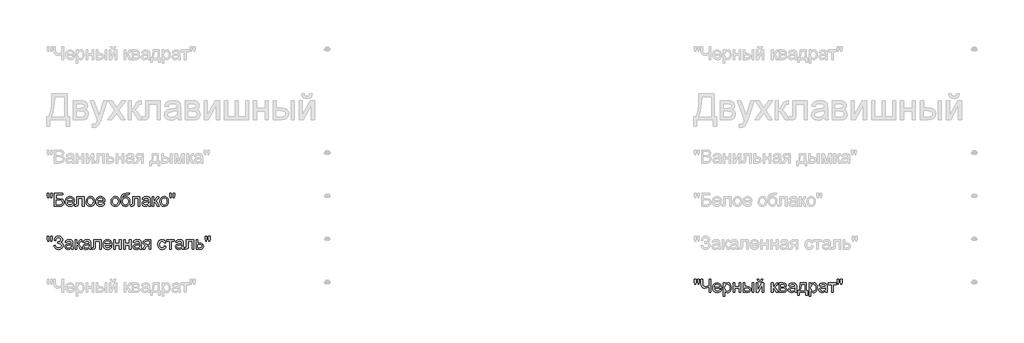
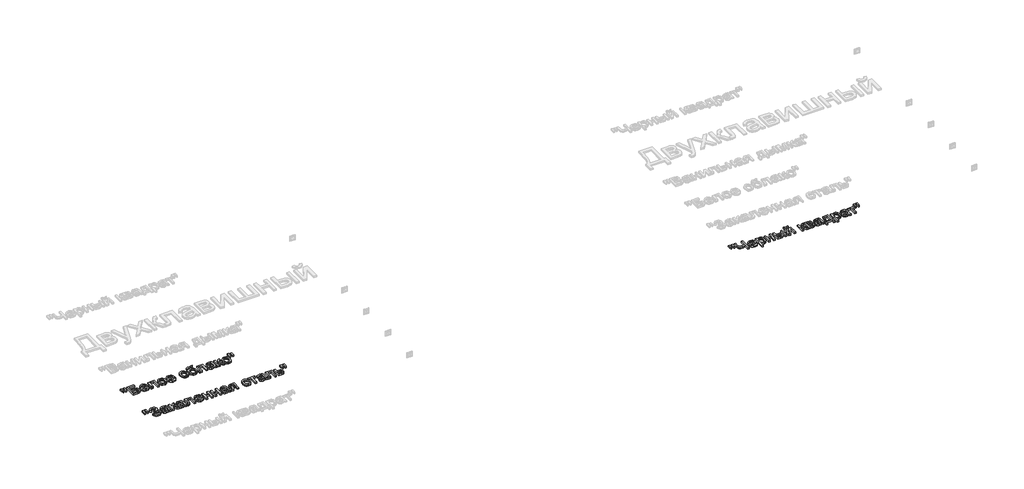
# One storey, part 132 of 168: 3 proxies.
"""IFC4 building model written with IfcOpenShell, lengths in millimetres."""

from ifc_helpers import new_model, si_unit, origin, origin_with_axes, place, context, project, spatial, polyline, outline, extrude, element, save

model = new_model("IFC4")

# Units and contexts
model_context = context("Model", 3, world=origin())
ifc_project = project(units=[si_unit("LENGTHUNIT", "METRE", prefix="MILLI")], contexts=[model_context])

# Site, building, storey
site = spatial("IfcSite", under=ifc_project)
building = spatial("IfcBuilding", under=site)
storey = spatial("IfcBuildingStorey", under=building, Name="Этаж 01", Elevation=0.0)

# Proxies
placement = place(None, origin())
element("IfcBuildingElementProxy", 1, Name="150", ObjectType="150", at=placement, inside=storey, context=model_context, shape_type="SweptSolid", body=[
    extrude(outline(polyline([(63580.1485789, -24451.873446), (63575.550054, -24422.7739802), (63575.550054, -24397.7212163), (63594.3856121, -24397.7212163), (63594.3856121, -24422.7739802), (63590.2653338, -24451.873446), (63580.1485789, -24451.873446)])), origin_with_axes(), (0.0, 0.0, 1.0), 20.0),
    extrude(outline(polyline([(63617.7093306, -24451.873446), (63613.2211703, -24422.7739802), (63613.2211703, -24397.7212163), (63632.0567284, -24397.7212163), (63632.0567284, -24422.7739802), (63627.6421445, -24451.873446), (63617.7093306, -24451.873446)])), origin_with_axes(), (0.0, 0.0, 1.0), 20.0),
    extrude(outline(polyline([(63657.9556209, -24397.7212163), (63752.1334117, -24397.7212163), (63752.1334117, -24416.5567745), (63676.791179, -24416.5567745), (63676.791179, -24461.2912251), (63712.0710624, -24461.2912251), (63743.157091, -24465.1171979), (63753.5589544, -24470.6446248), (63761.6615553, -24479.5749603), (63766.8762826, -24491.0712726), (63768.614525, -24504.2966303), (63763.6665122, -24525.7625448), (63748.8960501, -24542.0781113), (63735.6247071, -24546.823789), (63715.4555767, -24548.4056816), (63657.9556209, -24548.4056816), (63657.9556209, -24397.7212163)]), holes=[polyline([(63676.791179, -24529.5701234), (63717.1478339, -24529.5701234), (63731.4124583, -24528.015822), (63741.6119866, -24523.3529177), (63747.7372218, -24515.5814105), (63749.7789669, -24504.7013005), (63745.1068655, -24489.9492325), (63732.102237, -24482.0765578), (63703.7201411, -24480.1267833), (63676.791179, -24480.1267833), (63676.791179, -24529.5701234)])]), origin_with_axes(), (0.0, 0.0, 1.0), 20.0),
    extrude(outline(polyline([(63869.6349209, -24515.4434548), (63888.1025971, -24517.7978996), (63881.4485315, -24531.713036), (63870.8305374, -24542.1148995), (63856.4877381, -24548.5988196), (63838.6592569, -24550.7601263), (63816.5587461, -24547.0307226), (63799.5534008, -24535.8425114), (63788.710079, -24517.9220597), (63785.0956384, -24493.9959345), (63788.7468672, -24469.2650674), (63799.7005536, -24450.7698), (63816.4759726, -24439.2366995), (63837.5923991, -24435.3923327), (63858.0512366, -24439.2275025), (63874.3989927, -24450.7330118), (63885.1181544, -24469.191491), (63888.6912083, -24493.8855699), (63888.5808437, -24498.9623414), (63803.9311966, -24498.9623414), (63807.1915508, -24513.0614189), (63814.7653213, -24523.4264941), (63825.6960151, -24529.8000497), (63839.0271389, -24531.9245682), (63857.4948151, -24527.9882308), (63869.6349209, -24515.4434548)]), holes=[polyline([(63803.9311966, -24480.1267833), (63869.8556501, -24480.1267833), (63867.3080673, -24470.1755753), (63862.3140692, -24463.0570587), (63851.3327917, -24456.4351828), (63837.5188227, -24454.2278908), (63824.8222954, -24455.9891259), (63814.3238629, -24461.272831), (63807.0260039, -24469.5087892), (63803.9311966, -24480.1267833)])]), origin_with_axes(), (0.0, 0.0, 1.0), 20.0),
    extrude(outline(polyline([(63916.9445455, -24437.7467774), (64001.7045572, -24437.7467774), (64001.7045572, -24548.295317), (63982.868999, -24548.295317), (63982.868999, -24456.5823356), (63935.7801036, -24456.5823356), (63935.7801036, -24509.3734019), (63934.5109108, -24533.72719), (63927.539547, -24544.0094917), (63911.0584336, -24548.4056816), (63895.7545426, -24547.4491884), (63895.7545426, -24529.5701234), (63904.1790403, -24529.5701234), (63912.6955084, -24528.4112951), (63916.0984169, -24524.7324752), (63916.9445455, -24508.3065441), (63916.9445455, -24437.7467774)])), origin_with_axes(), (0.0, 0.0, 1.0), 20.0),
    extrude(outline(polyline([(64025.2490049, -24493.0762295), (64029.323298, -24466.3955878), (64041.5461773, -24447.6428031), (64056.6477332, -24438.4549503), (64074.7291332, -24435.3923327), (64094.516586, -24439.1217364), (64110.3217163, -24450.3099476), (64120.6821929, -24468.0740494), (64124.1356852, -24491.5311251), (64122.6089749, -24510.5598213), (64118.0288441, -24525.0451749), (64110.5286499, -24535.8930952), (64100.2417496, -24544.0094917), (64088.0234688, -24549.0724677), (64074.7291332, -24550.7601263), (64054.7025571, -24547.0445182), (64038.915821, -24535.8976937), (64028.6657089, -24517.7611114), (64025.2490049, -24493.0762295)]), holes=[polyline([(64044.084563, -24493.0394413), (64046.2642638, -24510.0861732), (64052.8033663, -24522.2308776), (64062.6442097, -24529.5011455), (64074.7291332, -24531.9245682), (64086.7588745, -24529.48735), (64096.5813237, -24522.1756953), (64103.1204262, -24509.8700426), (64105.300127, -24492.4508301), (64103.1066306, -24475.9007388), (64096.5261414, -24463.9215814), (64086.6898966, -24456.6513134), (64074.7291332, -24454.2278908), (64062.6442097, -24456.6421164), (64052.8033663, -24463.8847932), (64046.2642638, -24476.0019064), (64044.084563, -24493.0394413)])]), origin_with_axes(), (0.0, 0.0, 1.0), 20.0),
    extrude(outline(polyline([(64222.8016363, -24515.4434548), (64241.2693124, -24517.7978996), (64234.6152469, -24531.713036), (64223.9972528, -24542.1148995), (64209.6544535, -24548.5988196), (64191.8259723, -24550.7601263), (64169.7254614, -24547.0307226), (64152.7201162, -24535.8425114), (64141.8767944, -24517.9220597), (64138.2623538, -24493.9959345), (64141.9135826, -24469.2650674), (64152.867269, -24450.7698), (64169.642688, -24439.2366995), (64190.7591145, -24435.3923327), (64211.217952, -24439.2275025), (64227.5657081, -24450.7330118), (64238.2848698, -24469.191491), (64241.8579236, -24493.8855699), (64241.747559, -24498.9623414), (64157.0979119, -24498.9623414), (64160.3582661, -24513.0614189), (64167.9320367, -24523.4264941), (64178.8627305, -24529.8000497), (64192.1938543, -24531.9245682), (64210.6615304, -24527.9882308), (64222.8016363, -24515.4434548)]), holes=[polyline([(64157.0979119, -24480.1267833), (64223.0223655, -24480.1267833), (64220.4747827, -24470.1755753), (64215.4807846, -24463.0570587), (64204.499507, -24456.4351828), (64190.6855381, -24454.2278908), (64177.9890107, -24455.9891259), (64167.4905783, -24461.272831), (64160.1927192, -24469.5087892), (64157.0979119, -24480.1267833)])]), origin_with_axes(), (0.0, 0.0, 1.0), 20.0),
    extrude(outline(polyline([(64314.8457115, -24493.0762295), (64318.9200046, -24466.3955878), (64331.1428839, -24447.6428031), (64346.2444398, -24438.4549503), (64364.3258398, -24435.3923327), (64384.1132926, -24439.1217364), (64399.9184229, -24450.3099476), (64410.2788995, -24468.0740494), (64413.7323918, -24491.5311251), (64412.2056815, -24510.5598213), (64407.6255507, -24525.0451749), (64400.1253565, -24535.8930952), (64389.8384562, -24544.0094917), (64377.6201754, -24549.0724677), (64364.3258398, -24550.7601263), (64344.2992637, -24547.0445182), (64328.5125276, -24535.8976937), (64318.2624155, -24517.7611114), (64314.8457115, -24493.0762295)]), holes=[polyline([(64333.6812696, -24493.0394413), (64335.8609704, -24510.0861732), (64342.4000729, -24522.2308776), (64352.2409163, -24529.5011455), (64364.3258398, -24531.9245682), (64376.3555811, -24529.48735), (64386.1780303, -24522.1756953), (64392.7171328, -24509.8700426), (64394.8968336, -24492.4508301), (64392.7033372, -24475.9007388), (64386.122848, -24463.9215814), (64376.2866032, -24456.6513134), (64364.3258398, -24454.2278908), (64352.2409163, -24456.6421164), (64342.4000729, -24463.8847932), (64335.8609704, -24476.0019064), (64333.6812696, -24493.0394413)])]), origin_with_axes(), (0.0, 0.0, 1.0), 20.0),
    extrude(outline(polyline([(64512.6190721, -24395.3667716), (64529.1001855, -24395.3667716), (64524.2441431, -24410.0636573), (64514.6424231, -24415.3795521), (64491.576222, -24416.5567745), (64460.5085875, -24420.897782), (64453.3808738, -24426.5447707), (64448.5892108, -24434.8037215), (64444.560903, -24459.4150269), (64460.8764695, -24441.3888092), (64470.7954878, -24436.8914518), (64481.9009255, -24435.3923327), (64501.4998388, -24439.2045098), (64517.401538, -24450.6410414), (64527.9413572, -24468.5798871), (64531.4546302, -24491.8990071), (64529.7117893, -24509.8792396), (64524.4832664, -24524.3094109), (64507.9469707, -24543.8623389), (64496.6529935, -24549.0356795), (64481.9009255, -24550.7601263), (64464.9001788, -24548.5390388), (64452.1576662, -24541.8757762), (64442.7812738, -24531.7498242), (64435.8788879, -24519.1406689), (64431.6298508, -24500.1533594), (64430.2135052, -24470.8929452), (64433.786559, -24434.7531377), (64444.5057207, -24412.7124076), (64462.6377045, -24401.4690142), (64488.449225, -24397.7212163), (64509.4184987, -24397.2981521), (64512.6190721, -24395.3667716)]), holes=[polyline([(64512.6190721, -24491.3103959), (64510.577327, -24476.48935), (64504.4520918, -24464.6205572), (64494.6112484, -24456.8260574), (64481.4226789, -24454.2278908), (64467.6730893, -24456.9732102), (64457.473561, -24465.2091684), (64451.1551877, -24478.0344544), (64449.0490633, -24494.5477575), (64451.3759169, -24510.5552228), (64458.3564778, -24522.304454), (64468.7491442, -24529.5195396), (64481.3123143, -24531.9245682), (64493.9398638, -24529.1424606), (64503.937057, -24520.7961378), (64510.4485683, -24507.8604872), (64512.6190721, -24491.3103959)])]), origin_with_axes(), (0.0, 0.0, 1.0), 20.0),
    extrude(outline(polyline([(64564.416857, -24437.7467774), (64649.1768687, -24437.7467774), (64649.1768687, -24548.295317), (64630.3413105, -24548.295317), (64630.3413105, -24456.5823356), (64583.2524152, -24456.5823356), (64583.2524152, -24509.3734019), (64581.9832223, -24533.72719), (64575.0118585, -24544.0094917), (64558.5307451, -24548.4056816), (64543.2268541, -24547.4491884), (64543.2268541, -24529.5701234), (64551.6513518, -24529.5701234), (64560.16782, -24528.4112951), (64563.5707284, -24524.7324752), (64564.416857, -24508.3065441), (64564.416857, -24437.7467774)])), origin_with_axes(), (0.0, 0.0, 1.0), 20.0),
    extrude(outline(polyline([(64748.063549, -24534.279013), (64729.7982079, -24547.0445182), (64709.6198805, -24550.7601263), (64693.8791296, -24548.5252432), (64682.2678542, -24541.8205939), (64675.1079508, -24531.6394596), (64672.7213164, -24518.975122), (64676.3265599, -24504.0759012), (64685.7995213, -24493.2601705), (64698.9880908, -24487.079753), (64715.2852632, -24484.2470616), (64747.9531844, -24477.7723385), (64748.063549, -24473.5784838), (64746.766765, -24465.1723802), (64742.8764129, -24459.6725443), (64734.1760037, -24455.5890542), (64722.0542919, -24454.2278908), (64702.9980046, -24457.8515285), (64693.9113193, -24470.7090042), (64675.0757612, -24468.3545594), (64683.2243473, -24449.9604597), (64699.6318843, -24439.1815172), (64724.4823131, -24435.3923327), (64747.3093909, -24438.7400588), (64760.2036548, -24447.1461624), (64765.9794022, -24459.9300617), (64766.8991071, -24476.4111751), (64766.8991071, -24499.8452582), (64767.8556003, -24532.5683617), (64771.6079967, -24548.4056816), (64752.7724385, -24548.4056816), (64748.063549, -24534.279013)]), holes=[polyline([(64748.063549, -24496.6078966), (64717.6764962, -24502.383644), (64701.4712943, -24505.4370645), (64694.1320485, -24510.4034715), (64691.5568745, -24517.6507468), (64697.167075, -24527.841078), (64713.6297942, -24531.9245682), (64732.6860816, -24527.4180137), (64744.9733402, -24516.5103126), (64747.9531844, -24501.9421856), (64748.063549, -24496.6078966)])]), origin_with_axes(), (0.0, 0.0, 1.0), 20.0),
    extrude(outline(polyline([(64792.7979996, -24437.7467774), (64811.6335578, -24437.7467774), (64811.6335578, -24484.8356728), (64824.2519102, -24481.4511584), (64834.5893943, -24461.7326835), (64843.1794388, -24444.7181412), (64850.7578079, -24439.1815172), (64864.5349887, -24437.7467774), (64868.1402322, -24437.7467774), (64868.1402322, -24456.6927002), (64863.0634607, -24456.5823356), (64853.8664108, -24458.5688983), (64847.3916877, -24470.9665216), (64839.7949245, -24484.3758203), (64829.1447407, -24490.9425139), (64841.0273292, -24498.2725627), (64852.6891884, -24513.7144094), (64872.8491218, -24548.4056816), (64851.4383896, -24548.4056816), (64831.6831265, -24514.4501734), (64821.7503126, -24500.0843815), (64811.6335578, -24496.6078966), (64811.6335578, -24548.4056816), (64792.7979996, -24548.4056816), (64792.7979996, -24437.7467774)])), origin_with_axes(), (0.0, 0.0, 1.0), 20.0),
    extrude(outline(polyline([(64879.9124561, -24493.0762295), (64883.9867492, -24466.3955878), (64896.2096285, -24447.6428031), (64911.3111844, -24438.4549503), (64929.3925844, -24435.3923327), (64949.1800372, -24439.1217364), (64964.9851674, -24450.3099476), (64975.3456441, -24468.0740494), (64978.7991364, -24491.5311251), (64977.2724261, -24510.5598213), (64972.6922952, -24525.0451749), (64965.1921011, -24535.8930952), (64954.9052008, -24544.0094917), (64942.68692, -24549.0724677), (64929.3925844, -24550.7601263), (64909.3660083, -24547.0445182), (64893.5792722, -24535.8976937), (64883.3291601, -24517.7611114), (64879.9124561, -24493.0762295)]), holes=[polyline([(64898.7480142, -24493.0394413), (64900.927715, -24510.0861732), (64907.4668175, -24522.2308776), (64917.3076609, -24529.5011455), (64929.3925844, -24531.9245682), (64941.4223257, -24529.48735), (64951.2447749, -24522.1756953), (64957.7838774, -24509.8700426), (64959.9635782, -24492.4508301), (64957.7700818, -24475.9007388), (64951.1895926, -24463.9215814), (64941.3533478, -24456.6513134), (64929.3925844, -24454.2278908), (64917.3076609, -24456.6421164), (64907.4668175, -24463.8847932), (64900.927715, -24476.0019064), (64898.7480142, -24493.0394413)])]), origin_with_axes(), (0.0, 0.0, 1.0), 20.0),
    extrude(outline(polyline([(64999.8787747, -24451.873446), (64995.2802498, -24422.7739802), (64995.2802498, -24397.7212163), (65014.1158079, -24397.7212163), (65014.1158079, -24422.7739802), (65009.9955296, -24451.873446), (64999.8787747, -24451.873446)])), origin_with_axes(), (0.0, 0.0, 1.0), 20.0),
    extrude(outline(polyline([(65037.4395264, -24451.873446), (65032.9513661, -24422.7739802), (65032.9513661, -24397.7212163), (65051.7869242, -24397.7212163), (65051.7869242, -24422.7739802), (65047.3723403, -24451.873446), (65037.4395264, -24451.873446)])), origin_with_axes(), (0.0, 0.0, 1.0), 20.0),
])
element("IfcBuildingElementProxy", 2, Name="150", ObjectType="150", at=placement, inside=storey, context=model_context, shape_type="SweptSolid", body=[
    extrude(outline(polyline([(63580.1485789, -24951.873446), (63575.550054, -24922.7739802), (63575.550054, -24897.7212163), (63594.3856121, -24897.7212163), (63594.3856121, -24922.7739802), (63590.2653338, -24951.873446), (63580.1485789, -24951.873446)])), origin_with_axes(), (0.0, 0.0, 1.0), 20.0),
    extrude(outline(polyline([(63617.7093306, -24951.873446), (63613.2211703, -24922.7739802), (63613.2211703, -24897.7212163), (63632.0567284, -24897.7212163), (63632.0567284, -24922.7739802), (63627.6421445, -24951.873446), (63617.7093306, -24951.873446)])), origin_with_axes(), (0.0, 0.0, 1.0), 20.0),
    extrude(outline(polyline([(63650.8922866, -25006.0256757), (63669.7278447, -25001.3167862), (63681.2977335, -25021.7158428), (63692.2284273, -25029.3723868), (63706.2217387, -25031.9245682), (63720.398991, -25030.0069833), (63731.2193202, -25024.2542286), (63738.0757209, -25015.7883442), (63740.3611878, -25005.7313701), (63737.8641888, -24995.1961495), (63730.3731916, -24987.0613589), (63718.5779752, -24981.8604272), (63703.1683181, -24980.1267833), (63693.2722924, -24980.1267833), (63693.2722924, -24961.2912251), (63714.591054, -24959.7645148), (63727.6324708, -24951.9654165), (63733.2978535, -24937.7099892), (63731.4124583, -24928.8394346), (63725.7562726, -24921.2104817), (63716.8811195, -24915.9543677), (63705.3388219, -24914.2023297), (63686.1169876, -24919.591801), (63675.117316, -24933.8840165), (63672.0822895, -24947.1645565), (63653.2467313, -24942.455667), (63659.0983543, -24921.8542752), (63669.7002536, -24907.1389954), (63685.0524291, -24898.3098275), (63705.1548809, -24895.3667716), (63724.5468605, -24898.4247907), (63739.4598769, -24907.5988479), (63748.965028, -24920.8655924), (63752.1334117, -24936.201673), (63747.2037929, -24954.8440931), (63732.4149367, -24968.7592296), (63742.8903765, -24973.5830823), (63751.5080123, -24981.7270699), (63757.2745625, -24992.4922168), (63759.196746, -25005.1795471), (63755.508729, -25023.0172254), (63744.444678, -25037.6819214), (63727.2921799, -25047.4905751), (63705.3388219, -25050.7601263), (63686.2365493, -25047.9642232), (63670.7947025, -25039.5765137), (63659.0132816, -25025.5969979), (63650.8922866, -25006.0256757)])), origin_with_axes(), (0.0, 0.0, 1.0), 20.0),
    extrude(outline(polyline([(63853.3745367, -25034.279013), (63835.1091957, -25047.0445182), (63814.9308682, -25050.7601263), (63799.1901174, -25048.5252432), (63787.5788419, -25041.8205939), (63780.4189386, -25031.6394596), (63778.0323041, -25018.975122), (63781.6375477, -25004.0759012), (63791.110509, -24993.2601705), (63804.2990786, -24987.079753), (63820.596251, -24984.2470616), (63853.2641721, -24977.7723385), (63853.3745367, -24973.5784838), (63852.0777527, -24965.1723802), (63848.1874006, -24959.6725443), (63839.4869914, -24955.5890542), (63827.3652797, -24954.2278908), (63808.3089923, -24957.8515285), (63799.222307, -24970.7090042), (63780.3867489, -24968.3545594), (63788.5353351, -24949.9604597), (63804.9428721, -24939.1815172), (63829.7933008, -24935.3923327), (63852.6203786, -24938.7400588), (63865.5146426, -24947.1461624), (63871.2903899, -24959.9300617), (63872.2100949, -24976.4111751), (63872.2100949, -24999.8452582), (63873.1665881, -25032.5683617), (63876.9189844, -25048.4056816), (63858.0834263, -25048.4056816), (63853.3745367, -25034.279013)]), holes=[polyline([(63853.3745367, -24996.6078966), (63822.9874839, -25002.383644), (63806.782282, -25005.4370645), (63799.4430362, -25010.4034715), (63796.8678623, -25017.6507468), (63802.4780627, -25027.841078), (63818.940782, -25031.9245682), (63837.9970693, -25027.4180137), (63850.284328, -25016.5103126), (63853.2641721, -25001.9421856), (63853.3745367, -24996.6078966)])]), origin_with_axes(), (0.0, 0.0, 1.0), 20.0),
    extrude(outline(polyline([(63898.1089873, -24937.7467774), (63916.9445455, -24937.7467774), (63916.9445455, -24984.8356728), (63929.5628979, -24981.4511584), (63939.900382, -24961.7326835), (63948.4904266, -24944.7181412), (63956.0687957, -24939.1815172), (63969.8459764, -24937.7467774), (63973.4512199, -24937.7467774), (63973.4512199, -24956.6927002), (63968.3744484, -24956.5823356), (63959.1773985, -24958.5688983), (63952.7026754, -24970.9665216), (63945.1059122, -24984.3758203), (63934.4557285, -24990.9425139), (63946.3383169, -24998.2725627), (63958.0001762, -25013.7144094), (63978.1601095, -25048.4056816), (63956.7493774, -25048.4056816), (63936.9941142, -25014.4501734), (63927.0613004, -25000.0843815), (63916.9445455, -24996.6078966), (63916.9445455, -25048.4056816), (63898.1089873, -25048.4056816), (63898.1089873, -24937.7467774)])), origin_with_axes(), (0.0, 0.0, 1.0), 20.0),
    extrude(outline(polyline([(64060.5656764, -25034.279013), (64042.3003353, -25047.0445182), (64022.1220079, -25050.7601263), (64006.381257, -25048.5252432), (63994.7699816, -25041.8205939), (63987.6100782, -25031.6394596), (63985.2234438, -25018.975122), (63988.8286873, -25004.0759012), (63998.3016487, -24993.2601705), (64011.4902183, -24987.079753), (64027.7873906, -24984.2470616), (64060.4553118, -24977.7723385), (64060.5656764, -24973.5784838), (64059.2688924, -24965.1723802), (64055.3785403, -24959.6725443), (64046.6781311, -24955.5890542), (64034.5564193, -24954.2278908), (64015.500132, -24957.8515285), (64006.4134467, -24970.7090042), (63987.5778886, -24968.3545594), (63995.7264748, -24949.9604597), (64012.1340117, -24939.1815172), (64036.9844405, -24935.3923327), (64059.8115183, -24938.7400588), (64072.7057822, -24947.1461624), (64078.4815296, -24959.9300617), (64079.4012346, -24976.4111751), (64079.4012346, -24999.8452582), (64080.3577277, -25032.5683617), (64084.1101241, -25048.4056816), (64065.2745659, -25048.4056816), (64060.5656764, -25034.279013)]), holes=[polyline([(64060.5656764, -24996.6078966), (64030.1786236, -25002.383644), (64013.9734217, -25005.4370645), (64006.6341759, -25010.4034715), (64004.0590019, -25017.6507468), (64009.6692024, -25027.841078), (64026.1319217, -25031.9245682), (64045.188209, -25027.4180137), (64057.4754676, -25016.5103126), (64060.4553118, -25001.9421856), (64060.5656764, -24996.6078966)])]), origin_with_axes(), (0.0, 0.0, 1.0), 20.0),
    extrude(outline(polyline([(64114.7179061, -24937.7467774), (64199.4779178, -24937.7467774), (64199.4779178, -25048.295317), (64180.6423596, -25048.295317), (64180.6423596, -24956.5823356), (64133.5534643, -24956.5823356), (64133.5534643, -25009.3734019), (64132.2842714, -25033.72719), (64125.3129076, -25044.0094917), (64108.8317942, -25048.4056816), (64093.5279032, -25047.4491884), (64093.5279032, -25029.5701234), (64101.9524009, -25029.5701234), (64110.4688691, -25028.4112951), (64113.8717775, -25024.7324752), (64114.7179061, -25008.3065441), (64114.7179061, -24937.7467774)])), origin_with_axes(), (0.0, 0.0, 1.0), 20.0),
    extrude(outline(polyline([(64305.2072032, -25015.4434548), (64323.6748794, -25017.7978996), (64317.0208138, -25031.713036), (64306.4028197, -25042.1148995), (64292.0600204, -25048.5988196), (64274.2315392, -25050.7601263), (64252.1310283, -25047.0307226), (64235.1256831, -25035.8425114), (64224.2823613, -25017.9220597), (64220.6679207, -24993.9959345), (64224.3191495, -24969.2650674), (64235.2728359, -24950.7698), (64252.0482549, -24939.2366995), (64273.1646814, -24935.3923327), (64293.6235189, -24939.2275025), (64309.971275, -24950.7330118), (64320.6904367, -24969.191491), (64324.2634906, -24993.8855699), (64324.153126, -24998.9623414), (64239.5034789, -24998.9623414), (64242.763833, -25013.0614189), (64250.3376036, -25023.4264941), (64261.2682974, -25029.8000497), (64274.5994212, -25031.9245682), (64293.0670974, -25027.9882308), (64305.2072032, -25015.4434548)]), holes=[polyline([(64239.5034789, -24980.1267833), (64305.4279324, -24980.1267833), (64302.8803496, -24970.1755753), (64297.8863515, -24963.0570587), (64286.9050739, -24956.4351828), (64273.091105, -24954.2278908), (64260.3945777, -24955.9891259), (64249.8961452, -24961.272831), (64242.5982861, -24969.5087892), (64239.5034789, -24980.1267833)])]), origin_with_axes(), (0.0, 0.0, 1.0), 20.0),
    extrude(outline(polyline([(64343.0990487, -24937.7467774), (64361.9346069, -24937.7467774), (64361.9346069, -24980.1267833), (64411.377947, -24980.1267833), (64411.377947, -24937.7467774), (64430.2135052, -24937.7467774), (64430.2135052, -25048.4056816), (64411.377947, -25048.4056816), (64411.377947, -24998.9623414), (64361.9346069, -24998.9623414), (64361.9346069, -25048.4056816), (64343.0990487, -25048.4056816), (64343.0990487, -24937.7467774)])), origin_with_axes(), (0.0, 0.0, 1.0), 20.0),
    extrude(outline(polyline([(64458.4668424, -24937.7467774), (64477.3024005, -24937.7467774), (64477.3024005, -24980.1267833), (64526.7457407, -24980.1267833), (64526.7457407, -24937.7467774), (64545.5812988, -24937.7467774), (64545.5812988, -25048.4056816), (64526.7457407, -25048.4056816), (64526.7457407, -24998.9623414), (64477.3024005, -24998.9623414), (64477.3024005, -25048.4056816), (64458.4668424, -25048.4056816), (64458.4668424, -24937.7467774)])), origin_with_axes(), (0.0, 0.0, 1.0), 20.0),
    extrude(outline(polyline([(64644.4679792, -25034.279013), (64626.2026381, -25047.0445182), (64606.0243107, -25050.7601263), (64590.2835598, -25048.5252432), (64578.6722843, -25041.8205939), (64571.512381, -25031.6394596), (64569.1257465, -25018.975122), (64572.7309901, -25004.0759012), (64582.2039515, -24993.2601705), (64595.392521, -24987.079753), (64611.6896934, -24984.2470616), (64644.3576146, -24977.7723385), (64644.4679792, -24973.5784838), (64643.1711951, -24965.1723802), (64639.280843, -24959.6725443), (64630.5804338, -24955.5890542), (64618.4587221, -24954.2278908), (64599.4024347, -24957.8515285), (64590.3157495, -24970.7090042), (64571.4801913, -24968.3545594), (64579.6287775, -24949.9604597), (64596.0363145, -24939.1815172), (64620.8867433, -24935.3923327), (64643.7138211, -24938.7400588), (64656.608085, -24947.1461624), (64662.3838323, -24959.9300617), (64663.3035373, -24976.4111751), (64663.3035373, -24999.8452582), (64664.2600305, -25032.5683617), (64668.0124268, -25048.4056816), (64649.1768687, -25048.4056816), (64644.4679792, -25034.279013)]), holes=[polyline([(64644.4679792, -24996.6078966), (64614.0809264, -25002.383644), (64597.8757245, -25005.4370645), (64590.5364787, -25010.4034715), (64587.9613047, -25017.6507468), (64593.5715051, -25027.841078), (64610.0342244, -25031.9245682), (64629.0905118, -25027.4180137), (64641.3777704, -25016.5103126), (64644.3576146, -25001.9421856), (64644.4679792, -24996.6078966)])]), origin_with_axes(), (0.0, 0.0, 1.0), 20.0),
    extrude(outline(polyline([(64773.9624415, -24937.7467774), (64773.9624415, -25048.4056816), (64755.1268833, -25048.4056816), (64755.1268833, -25006.0256757), (64744.8629756, -25006.0256757), (64730.8834598, -25008.4169087), (64717.7500726, -25024.4933519), (64702.7404872, -25048.4056816), (64680.9618731, -25048.4056816), (64699.8710076, -25018.1657816), (64708.2219289, -25007.3132627), (64715.9106626, -25002.4940086), (64703.0347928, -24998.5484742), (64693.9848957, -24991.0528785), (64688.6322127, -24981.0832765), (64686.847985, -24969.7157228), (64689.2852032, -24956.8214589), (64696.5968579, -24946.6127335), (64708.5254316, -24939.9632664), (64724.8134069, -24937.7467774), (64773.9624415, -24937.7467774)]), holes=[polyline([(64755.1268833, -24956.5823356), (64730.2948486, -24956.5823356), (64717.4695626, -24957.672186), (64710.1900976, -24960.9417372), (64705.6835431, -24971.1504626), (64707.3436107, -24978.32876), (64712.3238132, -24983.3089625), (64735.8498668, -24987.1901176), (64755.1268833, -24987.1901176), (64755.1268833, -24956.5823356)])]), origin_with_axes(), (0.0, 0.0, 1.0), 20.0),
    extrude(outline(polyline([(64931.710241, -25008.3801205), (64950.5457991, -25010.7345653), (64945.2942837, -25027.4869916), (64935.4258491, -25040.1467308), (64921.8693976, -25048.1067774), (64905.5538311, -25050.7601263), (64885.518058, -25047.0583138), (64869.8508835, -25035.952876), (64859.7387272, -25017.9312568), (64856.3680084, -24993.4808997), (64857.8073467, -24976.7192763), (64862.1253616, -24962.192536), (64869.391031, -24950.4616989), (64879.6733328, -24942.087785), (64891.974387, -24937.0661957), (64905.2963137, -24935.3923327), (64921.2118085, -24937.6915951), (64933.9359271, -24944.5893825), (64943.0639991, -24955.7178129), (64948.1913544, -24970.7090042), (64929.3557962, -24973.063449), (64920.6185988, -24958.9551744), (64905.4434665, -24954.2278908), (64893.271171, -24956.5547444), (64883.6096701, -24963.5353053), (64877.3050924, -24975.5466524), (64875.2035665, -24992.9658649), (64877.2591072, -25010.6196021), (64883.4257291, -25022.672336), (64892.9124861, -25029.6115101), (64904.9284317, -25031.9245682), (64914.6819031, -25030.4806314), (64922.678738, -25026.1488209), (64928.4958721, -25018.8187721), (64931.710241, -25008.3801205)])), origin_with_axes(), (0.0, 0.0, 1.0), 20.0),
    extrude(outline(polyline([(64957.6091334, -24937.7467774), (65047.0780347, -24937.7467774), (65047.0780347, -24956.5823356), (65011.7613631, -24956.5823356), (65011.7613631, -25048.4056816), (64992.925805, -25048.4056816), (64992.925805, -24956.5823356), (64957.6091334, -24956.5823356), (64957.6091334, -24937.7467774)])), origin_with_axes(), (0.0, 0.0, 1.0), 20.0),
    extrude(outline(polyline([(65134.1924911, -25034.279013), (65115.9271501, -25047.0445182), (65095.7488226, -25050.7601263), (65080.0080718, -25048.5252432), (65068.3967963, -25041.8205939), (65061.236893, -25031.6394596), (65058.8502585, -25018.975122), (65062.4555021, -25004.0759012), (65071.9284634, -24993.2601705), (65085.117033, -24987.079753), (65101.4142054, -24984.2470616), (65134.0821265, -24977.7723385), (65134.1924911, -24973.5784838), (65132.8957071, -24965.1723802), (65129.005355, -24959.6725443), (65120.3049458, -24955.5890542), (65108.1832341, -24954.2278908), (65089.1269467, -24957.8515285), (65080.0402614, -24970.7090042), (65061.2047033, -24968.3545594), (65069.3532895, -24949.9604597), (65085.7608265, -24939.1815172), (65110.6112552, -24935.3923327), (65133.438333, -24938.7400588), (65146.332597, -24947.1461624), (65152.1083443, -24959.9300617), (65153.0280493, -24976.4111751), (65153.0280493, -24999.8452582), (65153.9845425, -25032.5683617), (65157.7369388, -25048.4056816), (65138.9013807, -25048.4056816), (65134.1924911, -25034.279013)]), holes=[polyline([(65134.1924911, -24996.6078966), (65103.8054383, -25002.383644), (65087.6002364, -25005.4370645), (65080.2609906, -25010.4034715), (65077.6858167, -25017.6507468), (65083.2960171, -25027.841078), (65099.7587364, -25031.9245682), (65118.8150237, -25027.4180137), (65131.1022824, -25016.5103126), (65134.0821265, -25001.9421856), (65134.1924911, -24996.6078966)])]), origin_with_axes(), (0.0, 0.0, 1.0), 20.0),
    extrude(outline(polyline([(65188.3447208, -24937.7467774), (65273.1047325, -24937.7467774), (65273.1047325, -25048.295317), (65254.2691744, -25048.295317), (65254.2691744, -24956.5823356), (65207.180279, -24956.5823356), (65207.180279, -25009.3734019), (65205.9110861, -25033.72719), (65198.9397223, -25044.0094917), (65182.4586089, -25048.4056816), (65167.1547179, -25047.4491884), (65167.1547179, -25029.5701234), (65175.5792156, -25029.5701234), (65184.0956838, -25028.4112951), (65187.4985922, -25024.7324752), (65188.3447208, -25008.3065441), (65188.3447208, -24937.7467774)])), origin_with_axes(), (0.0, 0.0, 1.0), 20.0),
    extrude(outline(polyline([(65301.3580697, -24937.7467774), (65320.1936279, -24937.7467774), (65320.1936279, -24977.7723385), (65341.8986656, -24977.7723385), (65360.7158297, -24980.1313818), (65374.6401632, -24987.2085117), (65383.2486019, -24998.433511), (65386.1180814, -25013.2361628), (65383.6762647, -25026.7144394), (65376.3508145, -25038.0865916), (65363.6542871, -25045.8259091), (65345.099239, -25048.4056816), (65301.3580697, -25048.4056816), (65301.3580697, -24937.7467774)]), holes=[polyline([(65320.1936279, -25029.5701234), (65337.7783873, -25029.5701234), (65360.4951005, -25025.615392), (65365.5856676, -25020.552416), (65367.2825233, -25013.272951), (65362.260934, -25001.6846682), (65354.1905228, -24997.8770895), (65340.0224674, -24996.6078966), (65320.1936279, -24996.6078966), (65320.1936279, -25029.5701234)])]), origin_with_axes(), (0.0, 0.0, 1.0), 20.0),
    extrude(outline(polyline([(65409.5521645, -24951.873446), (65404.9536396, -24922.7739802), (65404.9536396, -24897.7212163), (65423.7891977, -24897.7212163), (65423.7891977, -24922.7739802), (65419.6689194, -24951.873446), (65409.5521645, -24951.873446)])), origin_with_axes(), (0.0, 0.0, 1.0), 20.0),
    extrude(outline(polyline([(65447.1129162, -24951.873446), (65442.6247559, -24922.7739802), (65442.6247559, -24897.7212163), (65461.460314, -24897.7212163), (65461.460314, -24922.7739802), (65457.0457301, -24951.873446), (65447.1129162, -24951.873446)])), origin_with_axes(), (0.0, 0.0, 1.0), 20.0),
])
element("IfcBuildingElementProxy", 3, Name="150", ObjectType="150", at=placement, inside=storey, context=model_context, shape_type="SweptSolid", body=[
    extrude(outline(polyline([(71080.1485789, -25451.873446), (71075.550054, -25422.7739802), (71075.550054, -25397.7212163), (71094.3856121, -25397.7212163), (71094.3856121, -25422.7739802), (71090.2653338, -25451.873446), (71080.1485789, -25451.873446)])), origin_with_axes(), (0.0, 0.0, 1.0), 20.0),
    extrude(outline(polyline([(71117.7093306, -25451.873446), (71113.2211703, -25422.7739802), (71113.2211703, -25397.7212163), (71132.0567284, -25397.7212163), (71132.0567284, -25422.7739802), (71127.6421445, -25451.873446), (71117.7093306, -25451.873446)])), origin_with_axes(), (0.0, 0.0, 1.0), 20.0),
    extrude(outline(polyline([(71263.9056355, -25548.4056816), (71245.0700773, -25548.4056816), (71245.0700773, -25488.0730344), (71220.0908899, -25496.2400147), (71198.4226404, -25498.9623414), (71183.7395502, -25497.0999388), (71170.886673, -25491.512731), (71160.926268, -25483.0606422), (71154.9205944, -25472.6035965), (71150.8922866, -25442.6028198), (71150.8922866, -25397.7212163), (71169.7278447, -25397.7212163), (71169.7278447, -25440.064434), (71171.990319, -25460.4313009), (71178.7777418, -25472.3828673), (71188.7381468, -25478.1908043), (71200.5195677, -25480.1267833), (71222.2521966, -25477.7907326), (71245.0700773, -25470.7825806), (71245.0700773, -25397.7212163), (71263.9056355, -25397.7212163), (71263.9056355, -25548.4056816)])), origin_with_axes(), (0.0, 0.0, 1.0), 20.0),
    extrude(outline(polyline([(71371.9893657, -25515.4434548), (71390.4570418, -25517.7978996), (71383.8029763, -25531.713036), (71373.1849822, -25542.1148995), (71358.8421829, -25548.5988196), (71341.0137017, -25550.7601263), (71318.9131908, -25547.0307226), (71301.9078456, -25535.8425114), (71291.0645238, -25517.9220597), (71287.4500832, -25493.9959345), (71291.101312, -25469.2650674), (71302.0549984, -25450.7698), (71318.8304174, -25439.2366995), (71339.9468439, -25435.3923327), (71360.4056814, -25439.2275025), (71376.7534375, -25450.7330118), (71387.4725992, -25469.191491), (71391.045653, -25493.8855699), (71390.9352884, -25498.9623414), (71306.2856413, -25498.9623414), (71309.5459955, -25513.0614189), (71317.1197661, -25523.4264941), (71328.0504599, -25529.8000497), (71341.3815837, -25531.9245682), (71359.8492598, -25527.9882308), (71371.9893657, -25515.4434548)]), holes=[polyline([(71306.2856413, -25480.1267833), (71372.2100949, -25480.1267833), (71369.6625121, -25470.1755753), (71364.668514, -25463.0570587), (71353.6872364, -25456.4351828), (71339.8732675, -25454.2278908), (71327.1767401, -25455.9891259), (71316.6783077, -25461.272831), (71309.3804486, -25469.5087892), (71306.2856413, -25480.1267833)])]), origin_with_axes(), (0.0, 0.0, 1.0), 20.0),
    extrude(outline(polyline([(71409.8812112, -25590.7856874), (71409.8812112, -25437.7467774), (71428.7167693, -25437.7467774), (71428.7167693, -25456.2144536), (71441.739792, -25440.5978629), (71459.3245513, -25435.3923327), (71472.0624654, -25437.2133485), (71483.2000928, -25442.6763962), (71492.268384, -25451.4503817), (71498.7982894, -25463.2042115), (71504.0590019, -25492.2301009), (71502.5736784, -25508.3387338), (71498.1177077, -25522.7459124), (71490.8336442, -25534.7204713), (71480.8640422, -25543.5312451), (71469.2527667, -25548.952906), (71457.043683, -25550.7601263), (71440.6545401, -25545.9224781), (71428.7167693, -25533.6904018), (71428.7167693, -25590.7856874), (71409.8812112, -25590.7856874)]), holes=[polyline([(71428.7167693, -25493.9591463), (71430.7539159, -25510.8449299), (71436.8653555, -25522.6539419), (71445.8830629, -25529.6069116), (71456.6390128, -25531.9245682), (71467.5697066, -25529.5241382), (71476.8173402, -25522.3228481), (71483.1219179, -25510.0815747), (71485.2234438, -25492.5611947), (71483.1725017, -25475.7673816), (71477.0196753, -25463.7928227), (71468.0157635, -25456.6191238), (71457.411565, -25454.2278908), (71446.7659797, -25456.7708751), (71437.4171785, -25464.399828), (71430.8918716, -25476.8756261), (71428.7167693, -25493.9591463)])]), origin_with_axes(), (0.0, 0.0, 1.0), 20.0),
    extrude(outline(polyline([(71525.2490049, -25437.7467774), (71544.084563, -25437.7467774), (71544.084563, -25480.1267833), (71593.5279032, -25480.1267833), (71593.5279032, -25437.7467774), (71612.3634613, -25437.7467774), (71612.3634613, -25548.4056816), (71593.5279032, -25548.4056816), (71593.5279032, -25498.9623414), (71544.084563, -25498.9623414), (71544.084563, -25548.4056816), (71525.2490049, -25548.4056816), (71525.2490049, -25437.7467774)])), origin_with_axes(), (0.0, 0.0, 1.0), 20.0),
    extrude(outline(polyline([(71744.2123684, -25437.7467774), (71763.0479266, -25437.7467774), (71763.0479266, -25548.4056816), (71744.2123684, -25548.4056816), (71744.2123684, -25437.7467774)])), origin_with_axes(), (0.0, 0.0, 1.0), 20.0),
    extrude(outline(polyline([(71640.6167986, -25437.7467774), (71659.4523567, -25437.7467774), (71659.4523567, -25477.7723385), (71682.739287, -25477.7723385), (71702.8670307, -25480.1313818), (71717.780047, -25487.2085117), (71727.0092866, -25498.433511), (71730.0856998, -25513.2361628), (71727.5059273, -25526.7144394), (71719.7666098, -25538.0865916), (71706.3619096, -25545.8259091), (71686.785989, -25548.4056816), (71640.6167986, -25548.4056816), (71640.6167986, -25437.7467774)]), holes=[polyline([(71659.4523567, -25529.5701234), (71678.8029497, -25529.5701234), (71703.7821371, -25525.615392), (71709.3831405, -25520.552416), (71711.2501416, -25513.272951), (71705.7135176, -25501.6846682), (71696.8337659, -25497.8770895), (71681.267759, -25496.6078966), (71659.4523567, -25496.6078966), (71659.4523567, -25529.5701234)])]), origin_with_axes(), (0.0, 0.0, 1.0), 20.0),
    extrude(outline(polyline([(71791.3012638, -25437.7467774), (71810.1368219, -25437.7467774), (71810.1368219, -25522.1389071), (71856.4163769, -25437.7467774), (71880.770165, -25437.7467774), (71880.770165, -25548.4056816), (71861.9346069, -25548.4056816), (71861.9346069, -25464.5285867), (71815.9493575, -25548.4056816), (71791.3012638, -25548.4056816), (71791.3012638, -25437.7467774)])), origin_with_axes(), (0.0, 0.0, 1.0), 20.0),
    extrude(outline(polyline([(71852.5168278, -25397.7212163), (71866.6434964, -25397.7212163), (71863.6038714, -25409.7831473), (71857.5016288, -25418.672096), (71848.6126801, -25424.1489392), (71837.2129368, -25425.9745536), (71824.8429047, -25424.1627347), (71815.2503817, -25418.7272783), (71808.6928851, -25409.8521251), (71805.4279324, -25397.7212163), (71819.554601, -25397.7212163), (71824.8521017, -25408.3346119), (71835.5206796, -25411.847885), (71847.219327, -25408.4449765), (71852.5168278, -25397.7212163)])), origin_with_axes(), (0.0, 0.0, 1.0), 20.0),
    extrude(outline(polyline([(71967.8846215, -25437.7467774), (71986.7201796, -25437.7467774), (71986.7201796, -25484.8356728), (71999.3385321, -25481.4511584), (72009.6760161, -25461.7326835), (72018.2660607, -25444.7181412), (72025.8444298, -25439.1815172), (72039.6216105, -25437.7467774), (72043.2268541, -25437.7467774), (72043.2268541, -25456.6927002), (72038.1500825, -25456.5823356), (72028.9530327, -25458.5688983), (72022.4783096, -25470.9665216), (72014.8815464, -25484.3758203), (72004.2313626, -25490.9425139), (72016.113951, -25498.2725627), (72027.7758103, -25513.7144094), (72047.9357436, -25548.4056816), (72026.5250115, -25548.4056816), (72006.7697484, -25514.4501734), (71996.8369345, -25500.0843815), (71986.7201796, -25496.6078966), (71986.7201796, -25548.4056816), (71967.8846215, -25548.4056816), (71967.8846215, -25437.7467774)])), origin_with_axes(), (0.0, 0.0, 1.0), 20.0),
    extrude(outline(polyline([(72059.7079675, -25437.7467774), (72101.2050565, -25437.7467774), (72123.9585579, -25440.2667691), (72136.7608514, -25449.5006072), (72142.1135344, -25465.5954445), (72138.8761728, -25478.6736494), (72129.1273, -25487.999458), (72141.7824406, -25498.2081833), (72146.8224239, -25515.9584896), (72143.6310476, -25530.3150845), (72136.0434815, -25540.4226423), (72124.0321343, -25546.4099217), (72107.569415, -25548.4056816), (72059.7079675, -25548.4056816), (72059.7079675, -25437.7467774)]), holes=[polyline([(72078.5435256, -25480.1267833), (72097.1583546, -25480.1267833), (72112.5174279, -25479.1702901), (72119.9854324, -25475.3443173), (72123.2779762, -25468.4281358), (72121.8340394, -25462.8087383), (72117.5022289, -25459.1942977), (72097.7469658, -25456.5823356), (72078.5435256, -25456.5823356), (72078.5435256, -25480.1267833)]), polyline([(72078.5435256, -25529.5701234), (72101.6465149, -25529.5701234), (72122.137542, -25526.167215), (72126.377382, -25521.5273033), (72127.9868658, -25514.4133852), (72124.7678983, -25505.345094), (72116.3801888, -25500.0659874), (72099.8071049, -25498.9623414), (72078.5435256, -25498.9623414), (72078.5435256, -25529.5701234)])]), origin_with_axes(), (0.0, 0.0, 1.0), 20.0),
    extrude(outline(polyline([(72241.0002147, -25534.279013), (72222.7348736, -25547.0445182), (72202.5565462, -25550.7601263), (72186.8157953, -25548.5252432), (72175.2045198, -25541.8205939), (72168.0446165, -25531.6394596), (72165.6579821, -25518.975122), (72169.2632256, -25504.0759012), (72178.736187, -25493.2601705), (72191.9247565, -25487.079753), (72208.2219289, -25484.2470616), (72240.8898501, -25477.7723385), (72241.0002147, -25473.5784838), (72239.7034307, -25465.1723802), (72235.8130786, -25459.6725443), (72227.1126694, -25455.5890542), (72214.9909576, -25454.2278908), (72195.9346703, -25457.8515285), (72186.847985, -25470.7090042), (72168.0124268, -25468.3545594), (72176.161013, -25449.9604597), (72192.56855, -25439.1815172), (72217.4189788, -25435.3923327), (72240.2460566, -25438.7400588), (72253.1403205, -25447.1461624), (72258.9160679, -25459.9300617), (72259.8357728, -25476.4111751), (72259.8357728, -25499.8452582), (72260.792266, -25532.5683617), (72264.5446624, -25548.4056816), (72245.7091042, -25548.4056816), (72241.0002147, -25534.279013)]), holes=[polyline([(72241.0002147, -25496.6078966), (72210.6131619, -25502.383644), (72194.40796, -25505.4370645), (72187.0687142, -25510.4034715), (72184.4935402, -25517.6507468), (72190.1037407, -25527.841078), (72206.5664599, -25531.9245682), (72225.6227473, -25527.4180137), (72237.9100059, -25516.5103126), (72240.8898501, -25501.9421856), (72241.0002147, -25496.6078966)])]), origin_with_axes(), (0.0, 0.0, 1.0), 20.0),
    extrude(outline(polyline([(72302.2157787, -25437.7467774), (72372.8491218, -25437.7467774), (72372.8491218, -25529.5701234), (72386.9757904, -25529.5701234), (72386.9757904, -25579.0134636), (72368.1402322, -25579.0134636), (72368.1402322, -25548.4056816), (72290.4435548, -25548.4056816), (72290.4435548, -25579.0134636), (72271.6079967, -25579.0134636), (72271.6079967, -25529.5701234), (72283.3802205, -25529.5701234), (72291.9380754, -25514.105284), (72297.9299534, -25493.6464466), (72302.2157787, -25437.7467774)]), holes=[polyline([(72318.6968921, -25456.5823356), (72314.2823081, -25499.4957703), (72304.5702235, -25529.5701234), (72354.0135636, -25529.5701234), (72354.0135636, -25456.5823356), (72318.6968921, -25456.5823356)])]), origin_with_axes(), (0.0, 0.0, 1.0), 20.0),
    extrude(outline(polyline([(72408.1657933, -25590.7856874), (72408.1657933, -25437.7467774), (72427.0013514, -25437.7467774), (72427.0013514, -25456.2144536), (72440.0243741, -25440.5978629), (72457.6091334, -25435.3923327), (72470.3470475, -25437.2133485), (72481.4846749, -25442.6763962), (72490.5529661, -25451.4503817), (72497.0828715, -25463.2042115), (72502.3435841, -25492.2301009), (72500.8582605, -25508.3387338), (72496.4022898, -25522.7459124), (72489.1182263, -25534.7204713), (72479.1486243, -25543.5312451), (72467.5373488, -25548.952906), (72455.3282651, -25550.7601263), (72438.9391222, -25545.9224781), (72427.0013514, -25533.6904018), (72427.0013514, -25590.7856874), (72408.1657933, -25590.7856874)]), holes=[polyline([(72427.0013514, -25493.9591463), (72429.038498, -25510.8449299), (72435.1499376, -25522.6539419), (72444.167645, -25529.6069116), (72454.9235949, -25531.9245682), (72465.8542887, -25529.5241382), (72475.1019223, -25522.3228481), (72481.4065, -25510.0815747), (72483.5080259, -25492.5611947), (72481.4570838, -25475.7673816), (72475.3042574, -25463.7928227), (72466.3003456, -25456.6191238), (72455.6961471, -25454.2278908), (72445.0505618, -25456.7708751), (72435.7017606, -25464.399828), (72429.1764537, -25476.8756261), (72427.0013514, -25493.9591463)])]), origin_with_axes(), (0.0, 0.0, 1.0), 20.0),
    extrude(outline(polyline([(72594.1669301, -25534.279013), (72575.901589, -25547.0445182), (72555.7232616, -25550.7601263), (72539.9825107, -25548.5252432), (72528.3712352, -25541.8205939), (72521.2113319, -25531.6394596), (72518.8246974, -25518.975122), (72522.429941, -25504.0759012), (72531.9029024, -25493.2601705), (72545.0914719, -25487.079753), (72561.3886443, -25484.2470616), (72594.0565655, -25477.7723385), (72594.1669301, -25473.5784838), (72592.870146, -25465.1723802), (72588.9797939, -25459.6725443), (72580.2793847, -25455.5890542), (72568.157673, -25454.2278908), (72549.1013856, -25457.8515285), (72540.0147004, -25470.7090042), (72521.1791422, -25468.3545594), (72529.3277284, -25449.9604597), (72545.7352654, -25439.1815172), (72570.5856942, -25435.3923327), (72593.412772, -25438.7400588), (72606.3070359, -25447.1461624), (72612.0827832, -25459.9300617), (72613.0024882, -25476.4111751), (72613.0024882, -25499.8452582), (72613.9589814, -25532.5683617), (72617.7113777, -25548.4056816), (72598.8758196, -25548.4056816), (72594.1669301, -25534.279013)]), holes=[polyline([(72594.1669301, -25496.6078966), (72563.7798773, -25502.383644), (72547.5746754, -25505.4370645), (72540.2354296, -25510.4034715), (72537.6602556, -25517.6507468), (72543.270456, -25527.841078), (72559.7331753, -25531.9245682), (72578.7894627, -25527.4180137), (72591.0767213, -25516.5103126), (72594.0565655, -25501.9421856), (72594.1669301, -25496.6078966)])]), origin_with_axes(), (0.0, 0.0, 1.0), 20.0),
    extrude(outline(polyline([(72629.4836016, -25437.7467774), (72718.9525028, -25437.7467774), (72718.9525028, -25456.5823356), (72683.6358313, -25456.5823356), (72683.6358313, -25548.4056816), (72664.8002731, -25548.4056816), (72664.8002731, -25456.5823356), (72629.4836016, -25456.5823356), (72629.4836016, -25437.7467774)])), origin_with_axes(), (0.0, 0.0, 1.0), 20.0),
    extrude(outline(polyline([(72735.3232516, -25451.873446), (72730.7247267, -25422.7739802), (72730.7247267, -25397.7212163), (72749.5602848, -25397.7212163), (72749.5602848, -25422.7739802), (72745.4400065, -25451.873446), (72735.3232516, -25451.873446)])), origin_with_axes(), (0.0, 0.0, 1.0), 20.0),
    extrude(outline(polyline([(72772.8840033, -25451.873446), (72768.395843, -25422.7739802), (72768.395843, -25397.7212163), (72787.2314011, -25397.7212163), (72787.2314011, -25422.7739802), (72782.8168172, -25451.873446), (72772.8840033, -25451.873446)])), origin_with_axes(), (0.0, 0.0, 1.0), 20.0),
])

save(model, "model.ifc")
